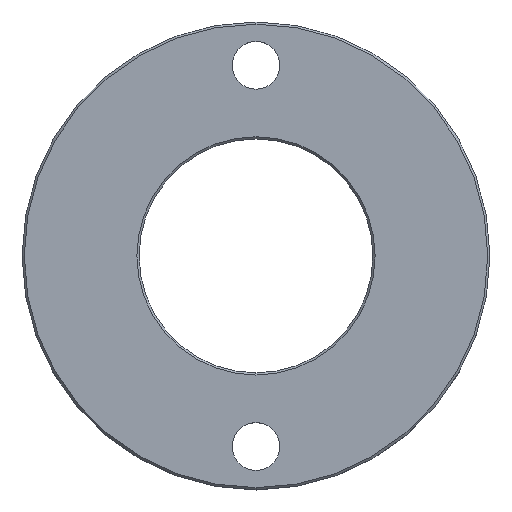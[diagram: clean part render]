
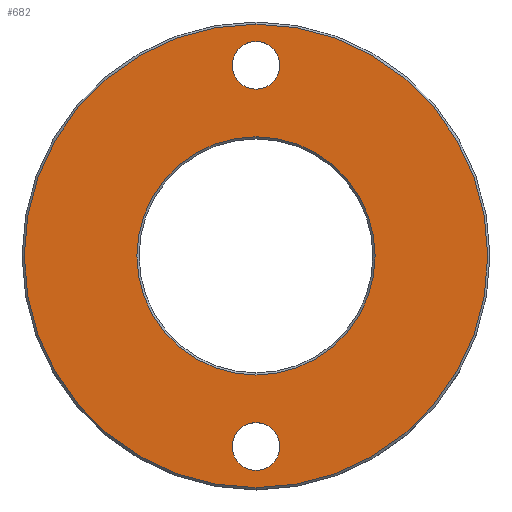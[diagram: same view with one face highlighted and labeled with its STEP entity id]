
A CAD part, top view. The second image highlights one B-rep face of the part: STEP entity #682.
In plain terms, the highlighted planar face has unit normal (0, 0, 1).
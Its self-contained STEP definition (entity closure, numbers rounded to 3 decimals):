
#93=VERTEX_POINT(' ',#94);
#94=CARTESIAN_POINT('',(0.,49.5,0.));
#95=VERTEX_POINT(' ',#96);
#96=CARTESIAN_POINT('',(0.,38.5,0.));
#101=VERTEX_POINT(' ',#102);
#102=CARTESIAN_POINT('',(0.,-38.5,0.));
#103=VERTEX_POINT(' ',#104);
#104=CARTESIAN_POINT('',(0.,-49.5,0.));
#137=VERTEX_POINT(' ',#138);
#138=CARTESIAN_POINT('',(0.,-27.5,0.));
#139=VERTEX_POINT(' ',#140);
#140=CARTESIAN_POINT('',(0.,27.5,0.));
#141=VERTEX_POINT(' ',#142);
#142=CARTESIAN_POINT('',(0.,-53.5,0.));
#143=VERTEX_POINT(' ',#144);
#144=CARTESIAN_POINT('',(0.,53.5,0.));
#168=CIRCLE('',#169,5.5);
#169=AXIS2_PLACEMENT_3D('',#170,#171,#172);
#170=CARTESIAN_POINT('',(0.,44.,0.));
#171=DIRECTION('',(0.,0.,1.));
#172=DIRECTION('',(1.,0.,0.));
#173=EDGE_CURVE(' ',#93,#95,#168,.T.);
#185=CIRCLE('',#186,5.5);
#186=AXIS2_PLACEMENT_3D('',#187,#188,#189);
#187=CARTESIAN_POINT('',(0.,44.,0.));
#188=DIRECTION('',(0.,0.,1.));
#189=DIRECTION('',(-1.,0.,0.));
#190=EDGE_CURVE(' ',#95,#93,#185,.T.);
#202=CIRCLE('',#203,5.5);
#203=AXIS2_PLACEMENT_3D('',#204,#205,#206);
#204=CARTESIAN_POINT('',(0.,-44.,0.));
#205=DIRECTION('',(0.,0.,1.));
#206=DIRECTION('',(1.,0.,0.));
#207=EDGE_CURVE(' ',#101,#103,#202,.T.);
#219=CIRCLE('',#220,5.5);
#220=AXIS2_PLACEMENT_3D('',#221,#222,#223);
#221=CARTESIAN_POINT('',(0.,-44.,0.));
#222=DIRECTION('',(0.,0.,1.));
#223=DIRECTION('',(-1.,0.,0.));
#224=EDGE_CURVE(' ',#103,#101,#219,.T.);
#371=CIRCLE('',#372,27.5);
#372=AXIS2_PLACEMENT_3D('',#373,#374,#375);
#373=CARTESIAN_POINT('',(0.,0.,0.));
#374=DIRECTION('',(0.,0.,1.));
#375=DIRECTION('',(1.,0.,0.));
#376=EDGE_CURVE(' ',#139,#137,#371,.T.);
#377=CIRCLE('',#378,27.5);
#378=AXIS2_PLACEMENT_3D('',#379,#380,#381);
#379=CARTESIAN_POINT('',(0.,0.,0.));
#380=DIRECTION('',(0.,0.,1.));
#381=DIRECTION('',(-1.,0.,0.));
#382=EDGE_CURVE(' ',#137,#139,#377,.T.);
#383=CIRCLE('',#384,53.5);
#384=AXIS2_PLACEMENT_3D('',#385,#386,#387);
#385=CARTESIAN_POINT('',(0.,0.,0.));
#386=DIRECTION('',(0.,0.,-1.));
#387=DIRECTION('',(-1.,0.,0.));
#388=EDGE_CURVE(' ',#143,#141,#383,.T.);
#389=CIRCLE('',#390,53.5);
#390=AXIS2_PLACEMENT_3D('',#391,#392,#393);
#391=CARTESIAN_POINT('',(0.,0.,0.));
#392=DIRECTION('',(0.,0.,-1.));
#393=DIRECTION('',(1.,0.,0.));
#394=EDGE_CURVE(' ',#141,#143,#389,.T.);
#661=ORIENTED_EDGE('',*,*,#388,.F.);
#662=ORIENTED_EDGE('',*,*,#394,.F.);
#663=EDGE_LOOP('',(#661,#662));
#664=FACE_OUTER_BOUND('',#663,.T.);
#665=ORIENTED_EDGE('',*,*,#382,.F.);
#666=ORIENTED_EDGE('',*,*,#376,.F.);
#667=EDGE_LOOP('',(#665,#666));
#668=FACE_BOUND('',#667,.T.);
#669=ORIENTED_EDGE('',*,*,#173,.F.);
#670=ORIENTED_EDGE('',*,*,#190,.F.);
#671=EDGE_LOOP('',(#669,#670));
#672=FACE_BOUND('',#671,.T.);
#673=ORIENTED_EDGE('',*,*,#207,.F.);
#674=ORIENTED_EDGE('',*,*,#224,.F.);
#675=EDGE_LOOP('',(#673,#674));
#676=FACE_BOUND('',#675,.T.);
#677=PLANE('',#678);
#678=AXIS2_PLACEMENT_3D('',#679,#680,#681);
#679=CARTESIAN_POINT('',(54.,0.,0.));
#680=DIRECTION('',(0.,0.,1.));
#681=DIRECTION('',(0.,1.,0.));
#682=ADVANCED_FACE('',(#664,#668,#672,#676),#677,.T.);
